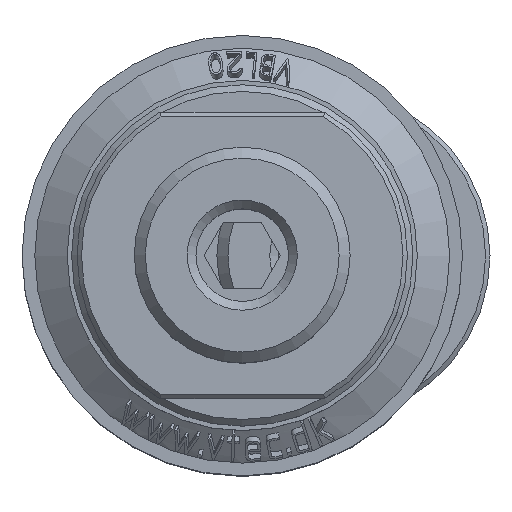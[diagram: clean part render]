
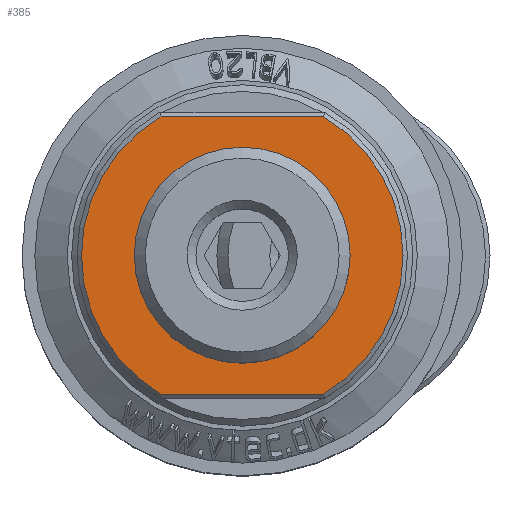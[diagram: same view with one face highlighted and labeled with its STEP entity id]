
A CAD part, top view. The second image highlights one B-rep face of the part: STEP entity #385.
In plain terms, the highlighted planar face has unit normal (0, 0, 1).
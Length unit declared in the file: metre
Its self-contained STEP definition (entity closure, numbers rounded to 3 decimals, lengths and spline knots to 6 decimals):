
#385 = ADVANCED_FACE( '', ( #911, #912 ), #913, .F. );
#911 = FACE_OUTER_BOUND( '', #4588, .T. );
#912 = FACE_BOUND( '', #4589, .T. );
#913 = PLANE( '', #4590 );
#4588 = EDGE_LOOP( '', ( #5837, #5838, #5839, #5840 ) );
#4589 = EDGE_LOOP( '', ( #5841 ) );
#4590 = AXIS2_PLACEMENT_3D( '', #5842, #5843, #5844 );
#5837 = ORIENTED_EDGE( '', *, *, #6471, .T. );
#5838 = ORIENTED_EDGE( '', *, *, #6473, .T. );
#5839 = ORIENTED_EDGE( '', *, *, #6475, .T. );
#5840 = ORIENTED_EDGE( '', *, *, #6446, .T. );
#5841 = ORIENTED_EDGE( '', *, *, #6477, .F. );
#5842 = CARTESIAN_POINT( '', ( 0.00375, 0., 0. ) );
#5843 = DIRECTION( '', ( 0., 0., -1. ) );
#5844 = DIRECTION( '', ( -1., 0., 0. ) );
#6446 = EDGE_CURVE( '', #7268, #7265, #7269, .T. );
#6471 = EDGE_CURVE( '', #7265, #7309, #7311, .F. );
#6473 = EDGE_CURVE( '', #7309, #7313, #7315, .T. );
#6475 = EDGE_CURVE( '', #7313, #7268, #7317, .F. );
#6477 = EDGE_CURVE( '', #7319, #7319, #7320, .F. );
#7265 = VERTEX_POINT( '', #9988 );
#7268 = VERTEX_POINT( '', #9994 );
#7269 = LINE( '', #9995, #9996 );
#7309 = VERTEX_POINT( '', #10065 );
#7311 = CIRCLE( '', #10070, 0.0073 );
#7313 = VERTEX_POINT( '', #10072 );
#7315 = LINE( '', #10077, #10078 );
#7317 = CIRCLE( '', #10081, 0.0073 );
#7319 = VERTEX_POINT( '', #10083 );
#7320 = CIRCLE( '', #10084, 0.0049 );
#9988 = CARTESIAN_POINT( '', ( 0.007438, -0.0063, 0. ) );
#9994 = CARTESIAN_POINT( '', ( 0.000062, -0.0063, 0. ) );
#9995 = CARTESIAN_POINT( '', ( 0.007492, -0.0063, 0. ) );
#9996 = VECTOR( '', #10408, 1. );
#10065 = CARTESIAN_POINT( '', ( 0.007438, 0.0063, 0. ) );
#10070 = AXIS2_PLACEMENT_3D( '', #10435, #10436, #10437 );
#10072 = CARTESIAN_POINT( '', ( 0.000062, 0.0063, 0. ) );
#10077 = CARTESIAN_POINT( '', ( 0.000008, 0.0063, 0. ) );
#10078 = VECTOR( '', #10438, 1. );
#10081 = AXIS2_PLACEMENT_3D( '', #10440, #10441, #10442 );
#10083 = CARTESIAN_POINT( '', ( -0.00115, 0., 0. ) );
#10084 = AXIS2_PLACEMENT_3D( '', #10446, #10447, #10448 );
#10408 = DIRECTION( '', ( 1., 0., 0. ) );
#10435 = CARTESIAN_POINT( '', ( 0.00375, 0., 0. ) );
#10436 = DIRECTION( '', ( 0., 0., -1. ) );
#10437 = DIRECTION( '', ( -1., 0., 0. ) );
#10438 = DIRECTION( '', ( -1., 0., 0. ) );
#10440 = CARTESIAN_POINT( '', ( 0.00375, 0., 0. ) );
#10441 = DIRECTION( '', ( 0., 0., -1. ) );
#10442 = DIRECTION( '', ( -1., 0., 0. ) );
#10446 = CARTESIAN_POINT( '', ( 0.00375, 0., 0. ) );
#10447 = DIRECTION( '', ( 0., 0., -1. ) );
#10448 = DIRECTION( '', ( -1., 0., 0. ) );
